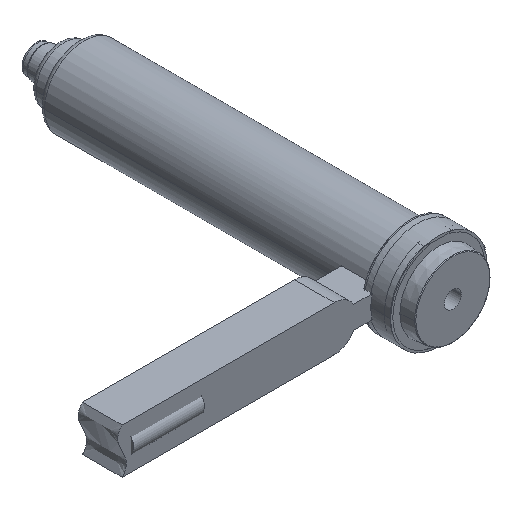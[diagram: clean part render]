
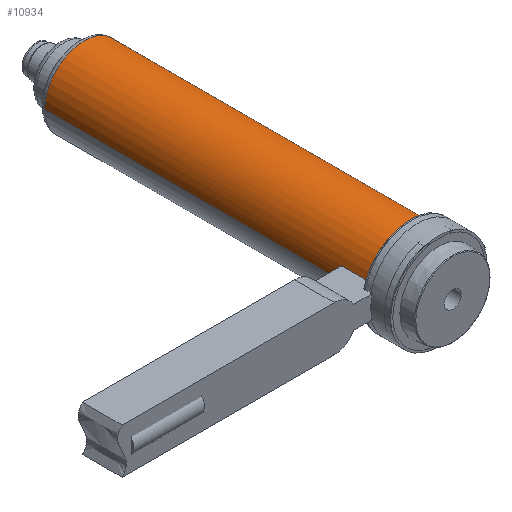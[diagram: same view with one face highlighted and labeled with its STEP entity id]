
A CAD part, isometric view. The second image highlights one B-rep face of the part: STEP entity #10934.
In plain terms, the highlighted cylindrical face has radius 14 mm (diameter 28 mm), a partial arc.
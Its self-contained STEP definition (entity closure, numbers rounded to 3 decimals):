
#10416=CARTESIAN_POINT('',(0.,21.,0.));
#10417=DIRECTION('',(0.,-1.,0.));
#10418=DIRECTION('',(-0.958,0.,0.286));
#10419=AXIS2_PLACEMENT_3D('',#10416,#10417,#10418);
#10421=DIRECTION('',(0.,-1.,0.));
#10422=VECTOR('',#10421,104.397);
#10423=CARTESIAN_POINT('',(-14.,125.397,0.));
#10424=LINE('',#10423,#10422);
#10425=CARTESIAN_POINT('',(0.,125.397,0.));
#10426=DIRECTION('',(0.,1.,0.));
#10427=DIRECTION('',(-1.,0.,0.));
#10428=AXIS2_PLACEMENT_3D('',#10425,#10426,#10427);
#10430=DIRECTION('',(0.,-1.,0.));
#10431=VECTOR('',#10430,115.397);
#10432=CARTESIAN_POINT('',(14.,125.397,0.));
#10433=LINE('',#10432,#10431);
#10434=DIRECTION('',(0.,-1.,0.));
#10435=VECTOR('',#10434,11.);
#10436=CARTESIAN_POINT('',(-13.416,21.,4.));
#10437=LINE('',#10436,#10435);
#10595=CARTESIAN_POINT('',(0.,10.,0.));
#10596=DIRECTION('',(0.,1.,0.));
#10597=DIRECTION('',(-0.958,0.,0.286));
#10598=AXIS2_PLACEMENT_3D('',#10595,#10596,#10597);
#10706=CARTESIAN_POINT('',(-14.,125.397,0.));
#10708=VERTEX_POINT('',#10706);
#10724=CARTESIAN_POINT('',(14.,125.397,0.));
#10726=VERTEX_POINT('',#10724);
#10727=CARTESIAN_POINT('',(14.,10.,0.));
#10728=VERTEX_POINT('',#10727);
#10757=CARTESIAN_POINT('',(-14.,21.,0.));
#10759=VERTEX_POINT('',#10757);
#10765=CARTESIAN_POINT('',(-13.416,21.,4.));
#10766=VERTEX_POINT('',#10765);
#10771=CARTESIAN_POINT('',(-13.416,10.,4.));
#10772=VERTEX_POINT('',#10771);
#10918=CARTESIAN_POINT('',(0.,149.517,0.));
#10919=DIRECTION('',(0.,-1.,0.));
#10920=DIRECTION('',(-1.,0.,0.));
#10921=AXIS2_PLACEMENT_3D('',#10918,#10919,#10920);
#10922=CYLINDRICAL_SURFACE('',#10921,14.);
#10923=ORIENTED_EDGE('',*,*,#10900,.T.);
#10924=ORIENTED_EDGE('',*,*,#10889,.F.);
#10926=ORIENTED_EDGE('',*,*,#10925,.T.);
#10927=ORIENTED_EDGE('',*,*,#10885,.T.);
#10929=ORIENTED_EDGE('',*,*,#10928,.F.);
#10931=ORIENTED_EDGE('',*,*,#10930,.F.);
#10932=EDGE_LOOP('',(#10923,#10924,#10926,#10927,#10929,#10931));
#10933=FACE_OUTER_BOUND('',#10932,.F.);
#10934=ADVANCED_FACE('',(#10933),#10922,.T.);
#10420=CIRCLE('',#10419,14.);
#10429=CIRCLE('',#10428,14.);
#10599=CIRCLE('',#10598,14.);
#10885=EDGE_CURVE('',#10726,#10728,#10433,.T.);
#10889=EDGE_CURVE('',#10708,#10759,#10424,.T.);
#10900=EDGE_CURVE('',#10766,#10759,#10420,.T.);
#10925=EDGE_CURVE('',#10708,#10726,#10429,.T.);
#10928=EDGE_CURVE('',#10772,#10728,#10599,.T.);
#10930=EDGE_CURVE('',#10766,#10772,#10437,.T.);
